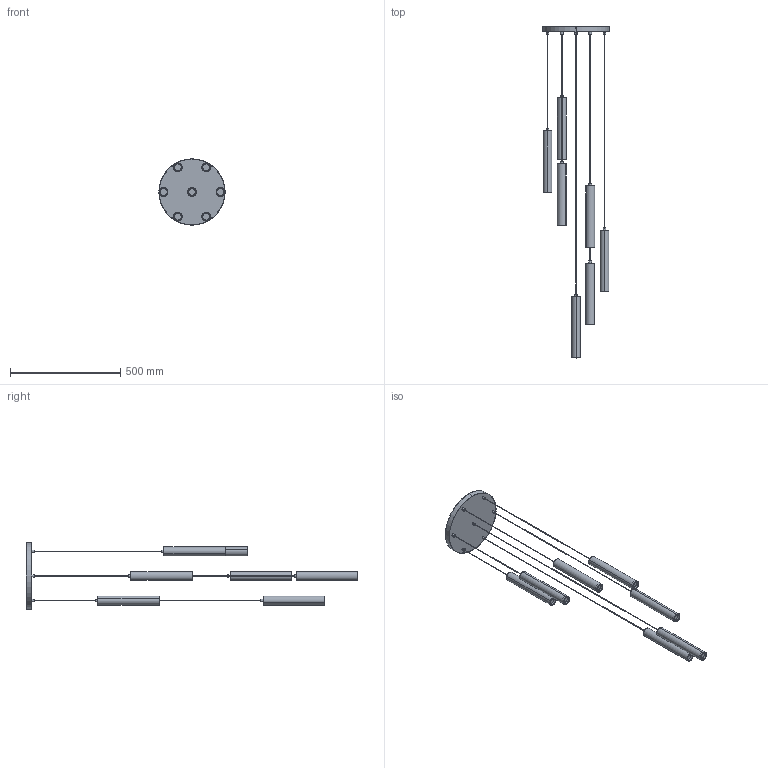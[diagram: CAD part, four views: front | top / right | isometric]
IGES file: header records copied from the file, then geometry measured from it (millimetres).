
Start section: SolidWorks IGES file using analytic representation for surfaces
Global section: file name: F:\燠隴矨\3D\2026-7\Long Cylinder Pendant Lamp-7Lamps.IGS,15; native system: HSolidWorks 2022; preprocessor: SolidWorks 2022; author: MyPC; date: 260722.174008; units: millimetre
Bounding box: 300 x 1505 x 300 mm (x, y, z)
Surface area: 504887.3 mm2 (no closed solid volume)
Topology: 0 solids, 0 shells, 140 faces, 3688 edges, 3688 vertices
Faces by surface type: revolution 74, bspline 66
